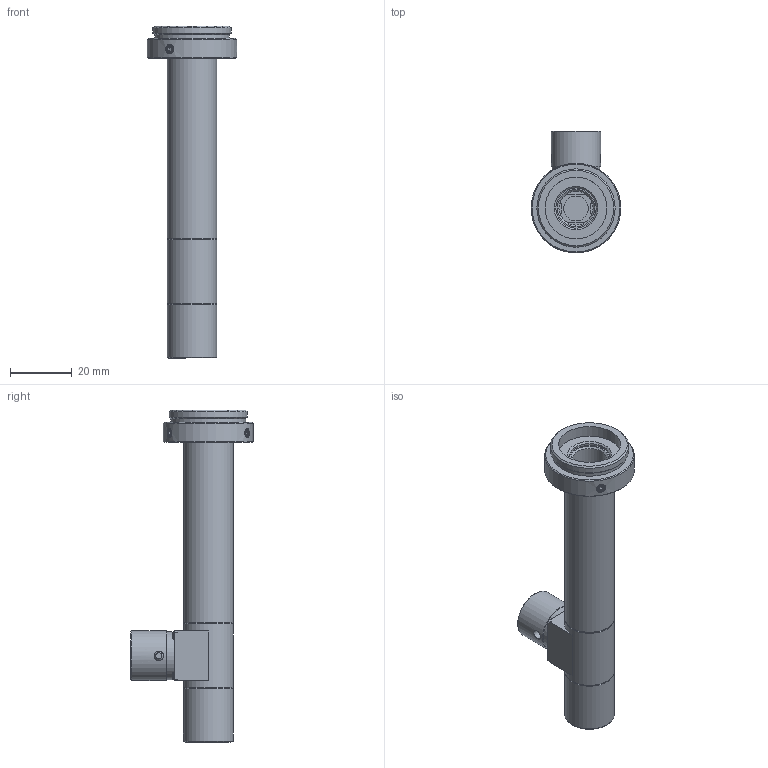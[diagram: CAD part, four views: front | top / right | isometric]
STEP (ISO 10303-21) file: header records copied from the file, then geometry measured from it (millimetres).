
FILE_DESCRIPTION(('STEP AP214'),'1');
FILE_NAME('RTK-8F-65.stp','2026-03-16T07:13:59',(' '),(' '),'Spatial InterOp 3D',' ',' ');
FILE_SCHEMA(('AUTOMOTIVE_DESIGN { 1 0 10303 214 1 1 1 1 }'));
Length unit declared in the file: metre
Products named in the file (2): RTK-8F-65; Component1
Assembly tree (1 placements, depth 2):
  RTK-8F-65
    Component1
Bounding box: 29 x 39.5 x 107.28 mm (x, y, z)
Volume: 16288.9 mm3; surface area: 14429.3 mm2
Topology: 1 solids, 15 shells, 356 faces, 845 edges, 551 vertices
Faces by surface type: plane 166, cone 96, cylinder 74, sphere 9, torus 8, bspline 3
Full cylindrical faces by diameter (mm): 1.7 x8, 1.8 x4, 2.5 x3, 3 x3, 6.5 x1, 8 x2, 9 x1, 10 x1, 11 x1, 12 x2, 12.7 x1, 13 x2, 13.4 x1, 13.5 x4, 13.7 x1, 14 x2, 14.2 x3, 14.7 x1, 15.5 x1, 16 x6, 20 x1, 24.12 x1, 25.32 x1, 29 x1
Entity records: 12876 total; most frequent: CARTESIAN_POINT 2479, DIRECTION 1604, ORIENTED_EDGE 1334, AXIS2_PLACEMENT_3D 678, EDGE_CURVE 667, EDGE_LOOP 528, VERTEX_POINT 500, FACE_OUTER_BOUND 418
